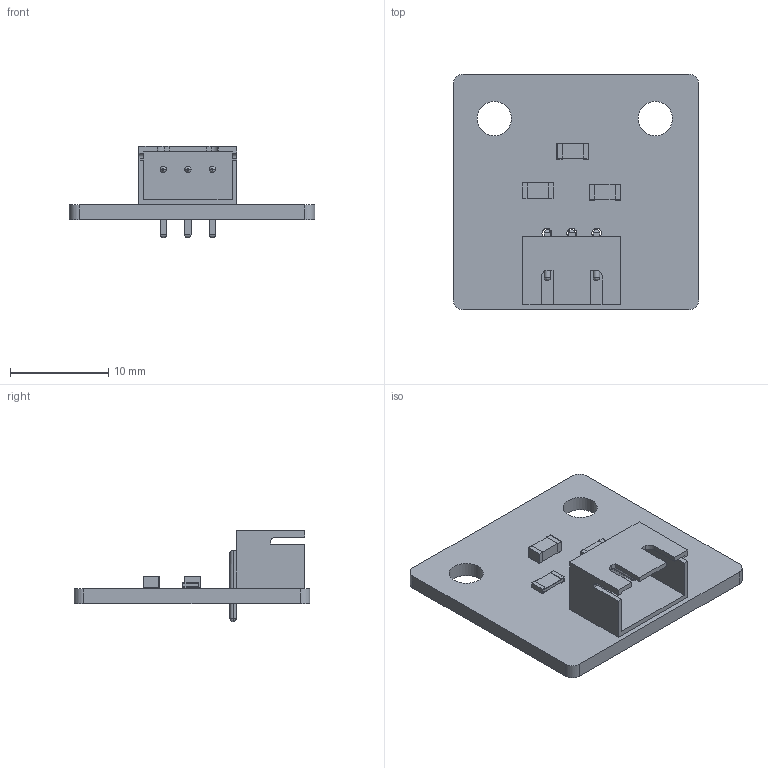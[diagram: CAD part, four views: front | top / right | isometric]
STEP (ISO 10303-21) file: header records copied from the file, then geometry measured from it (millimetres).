
FILE_DESCRIPTION(('KiCad electronic assembly'),'2;1');
FILE_NAME('hall_effect_sensor-MODIFIED.step','2026-04-16T11:04:40',( 'Pcbnew'),('Kicad'),'Open CASCADE STEP processor 7.9', 'KiCad to STEP converter','Unknown');
FILE_SCHEMA(('AUTOMOTIVE_DESIGN { 1 0 10303 214 1 1 1 1 }'));
Length unit declared in the file: millimetre
Products named in the file (12): hall_effect_sensor-MODIFIED 1; Resistor-1206; Ceramic; Contacts; Contacts (Mirror #1); Overcoat; Capacitor-1206; Body; Contact; ContactClone; User Library-JST-XH-2_5mm-3; hall_effect_sensor_PCB
Assembly tree (12 placements, depth 3):
  hall_effect_sensor-MODIFIED 1
    Resistor-1206
      Ceramic
      Contacts
      Contacts (Mirror #1)
      Overcoat
    Capacitor-1206  x2
      Body
      Contact
      ContactClone
    User Library-JST-XH-2_5mm-3
    hall_effect_sensor_PCB
Bounding box: 25 x 24 x 9.3 mm (x, y, z)
Volume: 1021.1 mm3; surface area: 2028.2 mm2
Topology: 15 solids, 15 shells, 158 faces, 357 edges, 226 vertices
Faces by surface type: plane 115, cylinder 34, bspline 9
Full cylindrical faces by diameter (mm): 1 x3, 3.5 x2
Entity records: 4295 total; most frequent: CARTESIAN_POINT 859, DIRECTION 638, ORIENTED_EDGE 630, EDGE_CURVE 315, LINE 244, VECTOR 244, VERTEX_POINT 202, AXIS2_PLACEMENT_3D 197
